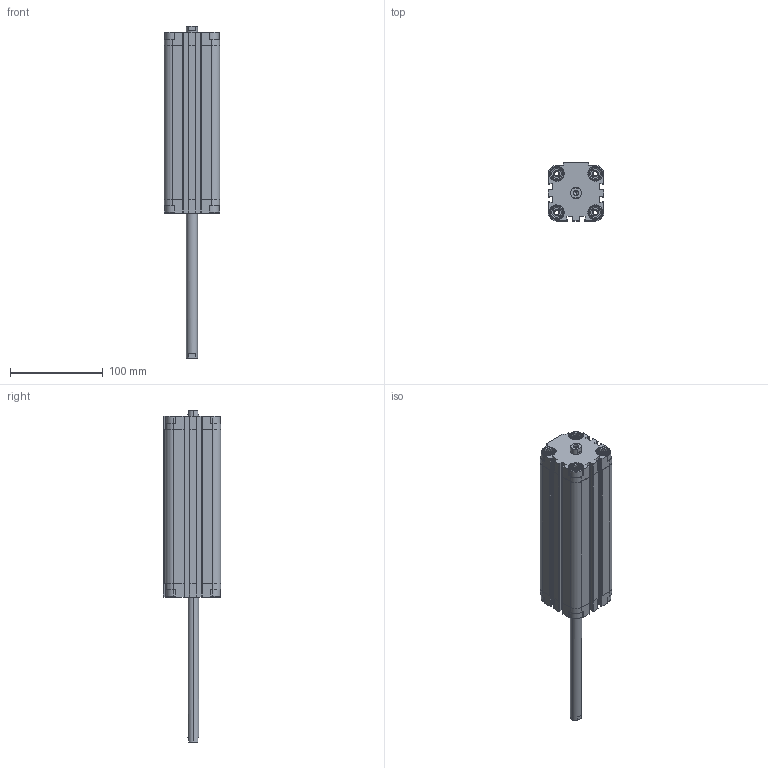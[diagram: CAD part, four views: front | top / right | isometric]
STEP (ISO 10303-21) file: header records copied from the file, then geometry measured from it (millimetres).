
FILE_DESCRIPTION (( 'STEP AP203' ), '1' );
FILE_NAME ('CDVU40-150F-P.STEP', '2020-07-24T18:34:47', ( '' ), ( '' ), 'SwSTEP 2.0', 'SolidWorks 2019', '' );
FILE_SCHEMA (( 'CONFIG_CONTROL_DESIGN' ));
Length unit declared in the file: millimetre
Products named in the file (1): CDVU40-150F-P
Bounding box: 60 x 62.5 x 358.5 mm (x, y, z)
Volume: 467816.4 mm3; surface area: 129308.5 mm2
Topology: 2 solids, 2 shells, 722 faces, 1928 edges, 1244 vertices
Faces by surface type: plane 422, cylinder 236, cone 64
Entity records: 22623 total; most frequent: CARTESIAN_POINT 4463, ORIENTED_EDGE 3840, DIRECTION 3710, EDGE_CURVE 1920, AXIS2_PLACEMENT_3D 1259, VERTEX_POINT 1244, VECTOR 1192, LINE 1192
